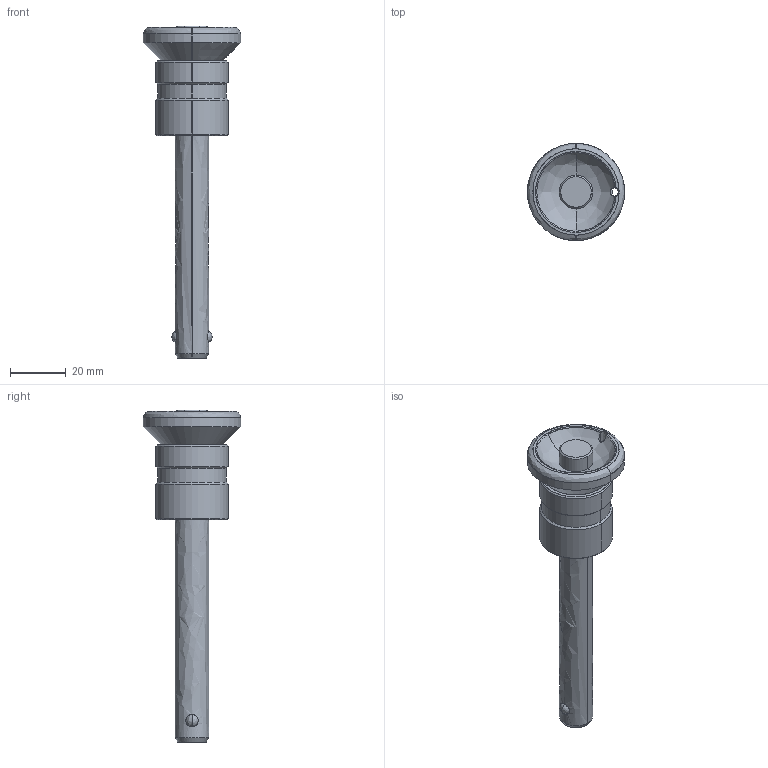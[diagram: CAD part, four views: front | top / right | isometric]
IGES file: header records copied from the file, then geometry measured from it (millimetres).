
Start section: SolidWorks IGES file using analytic representation for surfaces
Global section: file name: X:\11_SW2020-Inv2020\00_全2021-11新製品まで\a\ABLP12070-SUS\ablp12070-sus.IGS; native system: SolidWorks 2020; preprocessor: SolidWorks 2020; author: ImaoCorp; date: 211021.164111; units: millimetre
Bounding box: 35 x 35 x 119.4 mm (x, y, z)
Surface area: 12481.5 mm2 (no closed solid volume)
Topology: 0 solids, 0 shells, 66 faces, 1285 edges, 1285 vertices
Faces by surface type: revolution 50, bspline 16
